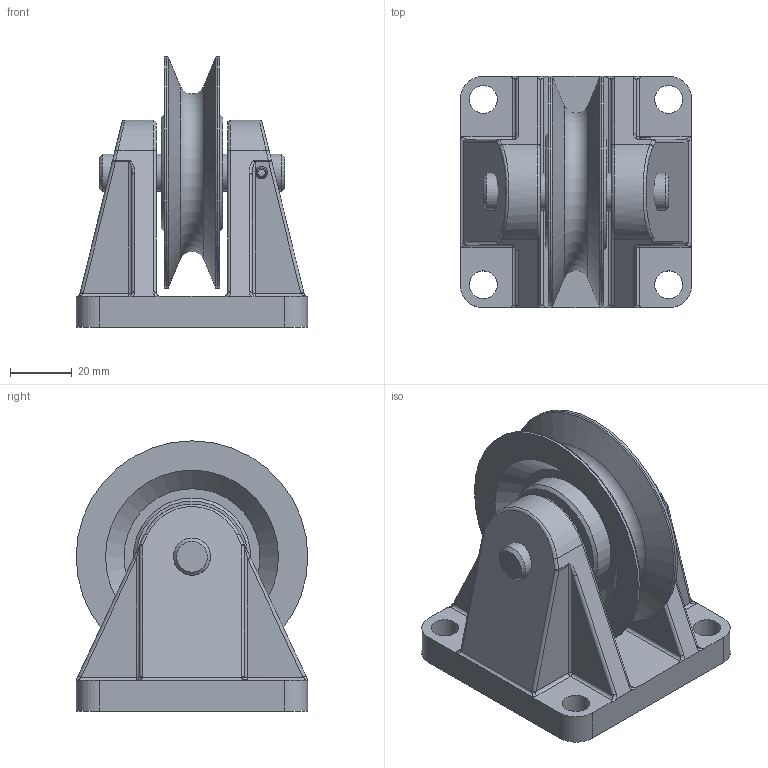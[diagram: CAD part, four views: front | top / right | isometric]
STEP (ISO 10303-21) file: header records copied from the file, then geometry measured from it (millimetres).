
FILE_DESCRIPTION(/* description */ ('Seilrollenbock ø75 Guß komplett '),/* implementation_level */ '2;1');
FILE_NAME(/* name */ 'Z:\Workspace\03 Seilrollen\1.403 Seilrollenbock Guß Gleitlager\1.403.02 Seilrollenbock ø75 Guß Gleitlager\1.403.02 Seilrollenbock ø75 Guß komplett .stp',/* time_stamp */ '2021-10-04T14:46:05+02:00',/* author */ ('cad-user'),/* organization */ (''),/* preprocessor_version */ 'ST-DEVELOPER v18',/* originating_system */ 'Autodesk Inventor 2020',/* authorisation */ '');
FILE_SCHEMA (('AUTOMOTIVE_DESIGN { 1 0 10303 214 3 1 1 }'));
Length unit declared in the file: millimetre
Products named in the file (6): 1.403.02 Seilrollenbock ø75 Guß komplett ; 1.403.02.01 Seilrollenbock ø75 Gußtei; 1.403.02.02 Stange; IFI 512-S - 4; Lagerbuchse 1220-DU; 1.401.02 Seilrolle ø75 Buchse
Assembly tree (5 placements, depth 2):
  1.403.02 Seilrollenbock ø75 Guß komplett 
    1.403.02.01 Seilrollenbock ø75 Gußtei
    1.403.02.02 Stange
    IFI 512-S - 4
    Lagerbuchse 1220-DU
    1.401.02 Seilrolle ø75 Buchse
Bounding box: 75 x 75 x 87.5 mm (x, y, z)
Volume: 181565 mm3; surface area: 51303.1 mm2
Topology: 5 solids, 5 shells, 148 faces, 366 edges, 224 vertices
Faces by surface type: cylinder 61, plane 38, bspline 22, cone 14, sphere 8, torus 5
Full cylindrical faces by diameter (mm): 4 x2, 9 x4, 12 x3, 14 x1, 38 x2, 75 x2
Entity records: 5470 total; most frequent: CARTESIAN_POINT 1673, DIRECTION 807, ORIENTED_EDGE 724, EDGE_CURVE 362, AXIS2_PLACEMENT_3D 332, VERTEX_POINT 224, EDGE_LOOP 168, CIRCLE 149
